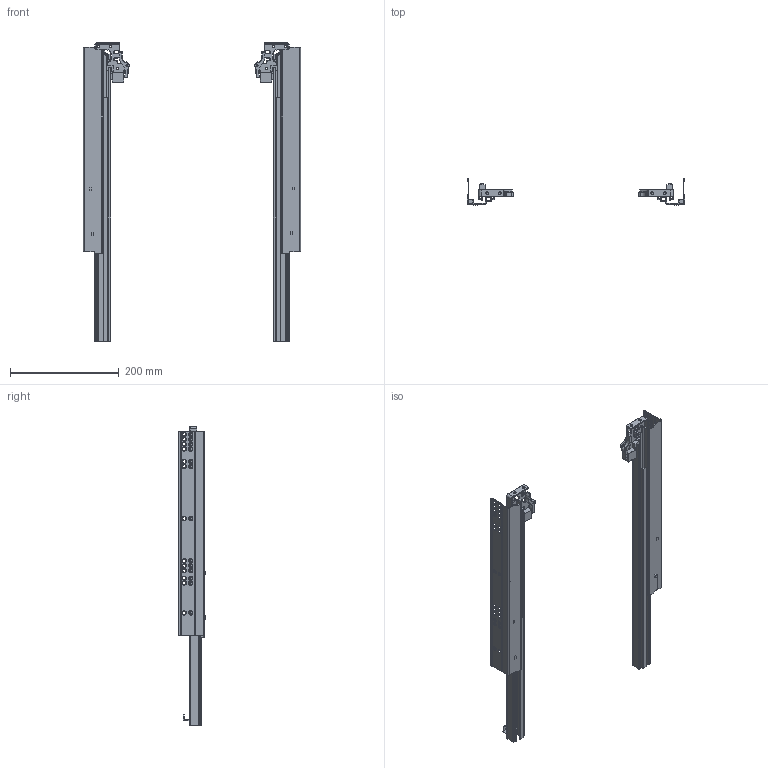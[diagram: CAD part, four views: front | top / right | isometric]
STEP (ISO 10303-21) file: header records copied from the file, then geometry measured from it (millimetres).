
FILE_DESCRIPTION(/* description */ (''),/* implementation_level */ '2;1');
FILE_NAME(/* name */ 'D:\$Workingspace\Designs\Katalog\Cadsoft\GTV Prowadnice\Prowadnice GTV_bryły 3D\PB-0FPO-550.stp',/* time_stamp */ '2016-11-21T11:59:52+01:00',/* author */ ('tomaszw'),/* organization */ (''),/* preprocessor_version */ 'ST-DEVELOPER v16.1',/* originating_system */ 'Autodesk Inventor 2016',/* authorisation */ '');
FILE_SCHEMA (('AUTOMOTIVE_DESIGN { 1 0 10303 214 3 1 1 }'));
Length unit declared in the file: millimetre
Products named in the file (9): PB-0FPO-CL-550; PB-0FPO-CR-550; PB-0FPO-DL-550; PB-0FPO-DR-550; PB-0FPO-DWL-550; PB-0FPO-DWR-550; PB-0FPO-SL; PB-0FPO-SR; PB-0FPO
Assembly tree (8 placements, depth 2):
  PB-0FPO
    PB-0FPO-CL-550
    PB-0FPO-CR-550
    PB-0FPO-DL-550
    PB-0FPO-DR-550
    PB-0FPO-DWL-550
    PB-0FPO-DWR-550
    PB-0FPO-SL
    PB-0FPO-SR
Bounding box: 400 x 48.8 x 550 mm (x, y, z)
Volume: 337955.2 mm3; surface area: 420658.1 mm2
Topology: 16 solids, 16 shells, 1892 faces, 4380 edges, 2526 vertices
Faces by surface type: cylinder 796, plane 444, torus 366, sphere 198, cone 52, bspline 36
Full cylindrical faces by diameter (mm): 3 x2, 4 x6, 4.5 x6, 5 x2, 6 x52, 7.889 x2
Entity records: 56601 total; most frequent: CARTESIAN_POINT 11187, DIRECTION 10022, ORIENTED_EDGE 8332, EDGE_CURVE 4166, AXIS2_PLACEMENT_3D 4051, VERTEX_POINT 2468, EDGE_LOOP 2206, CIRCLE 2166
